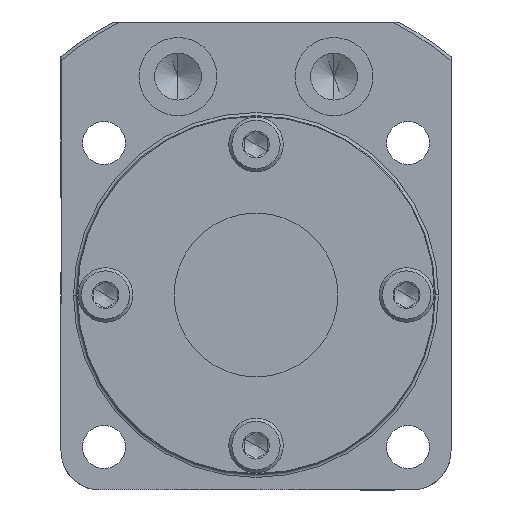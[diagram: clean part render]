
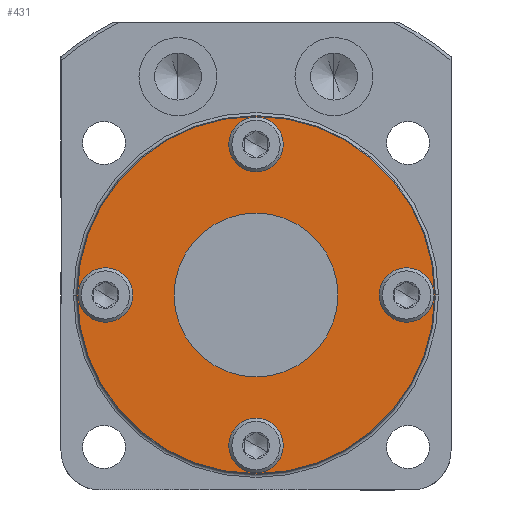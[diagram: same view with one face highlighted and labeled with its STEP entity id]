
A CAD part, front view. The second image highlights one B-rep face of the part: STEP entity #431.
In plain terms, the highlighted planar face has unit normal (0, -1, 0).
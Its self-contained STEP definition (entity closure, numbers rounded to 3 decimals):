
#419 = ORIENTED_EDGE ( 'NONE', *, *, #1632, .F. ) ;
#420 = EDGE_LOOP ( 'NONE', ( #422, #424 ) ) ;
#421 = EDGE_LOOP ( 'NONE', ( #456, #520 ) ) ;
#422 = ORIENTED_EDGE ( 'NONE', *, *, #423, .F. ) ;
#423 = EDGE_CURVE ( 'NONE', #1621, #1645, #2485, .T. ) ;
#424 = ORIENTED_EDGE ( 'NONE', *, *, #1697, .F. ) ;
#425 = ORIENTED_EDGE ( 'NONE', *, *, #1574, .F. ) ;
#426 = ORIENTED_EDGE ( 'NONE', *, *, #427, .F. ) ;
#427 = EDGE_CURVE ( 'NONE', #1631, #1633, #2522, .T. ) ;
#428 = EDGE_LOOP ( 'NONE', ( #426, #419 ) ) ;
#431 = ADVANCED_FACE ( 'NONE', ( #2512, #2511, #2510, #2509, #2508, #2507 ), #2506, .T. ) ;
#432 = EDGE_CURVE ( 'NONE', #1597, #1582, #2504, .T. ) ;
#433 = ORIENTED_EDGE ( 'NONE', *, *, #1596, .F. ) ;
#434 = EDGE_LOOP ( 'NONE', ( #435, #425 ) ) ;
#435 = ORIENTED_EDGE ( 'NONE', *, *, #436, .F. ) ;
#436 = EDGE_CURVE ( 'NONE', #1575, #1576, #2496, .T. ) ;
#439 = EDGE_CURVE ( 'NONE', #1769, #1706, #2491, .T. ) ;
#440 = ORIENTED_EDGE ( 'NONE', *, *, #432, .F. ) ;
#441 = EDGE_LOOP ( 'NONE', ( #440, #433 ) ) ;
#454 = ORIENTED_EDGE ( 'NONE', *, *, #1705, .T. ) ;
#455 = ORIENTED_EDGE ( 'NONE', *, *, #439, .T. ) ;
#456 = ORIENTED_EDGE ( 'NONE', *, *, #1711, .F. ) ;
#492 = EDGE_LOOP ( 'NONE', ( #454, #455 ) ) ;
#498 = EDGE_CURVE ( 'NONE', #1602, #1712, #2591, .T. ) ;
#520 = ORIENTED_EDGE ( 'NONE', *, *, #498, .F. ) ;
#1574 = EDGE_CURVE ( 'NONE', #1576, #1575, #4910, .T. ) ;
#1575 = VERTEX_POINT ( 'NONE', #4970 ) ;
#1576 = VERTEX_POINT ( 'NONE', #4969 ) ;
#1582 = VERTEX_POINT ( 'NONE', #4957 ) ;
#1596 = EDGE_CURVE ( 'NONE', #1582, #1597, #5001, .T. ) ;
#1597 = VERTEX_POINT ( 'NONE', #4991 ) ;
#1602 = VERTEX_POINT ( 'NONE', #4987 ) ;
#1621 = VERTEX_POINT ( 'NONE', #5036 ) ;
#1631 = VERTEX_POINT ( 'NONE', #5094 ) ;
#1632 = EDGE_CURVE ( 'NONE', #1633, #1631, #5093, .T. ) ;
#1633 = VERTEX_POINT ( 'NONE', #5088 ) ;
#1645 = VERTEX_POINT ( 'NONE', #5135 ) ;
#1697 = EDGE_CURVE ( 'NONE', #1645, #1621, #5316, .T. ) ;
#1705 = EDGE_CURVE ( 'NONE', #1706, #1769, #5299, .T. ) ;
#1706 = VERTEX_POINT ( 'NONE', #5294 ) ;
#1711 = EDGE_CURVE ( 'NONE', #1712, #1602, #5349, .T. ) ;
#1712 = VERTEX_POINT ( 'NONE', #5344 ) ;
#1769 = VERTEX_POINT ( 'NONE', #5393 ) ;
#2453 = CARTESIAN_POINT ( 'NONE',  ( 0., 15., 19.3 ) ) ;
#2482 = DIRECTION ( 'NONE',  ( 0., 0., -1. ) ) ;
#2483 = DIRECTION ( 'NONE',  ( 0., -1., 0. ) ) ;
#2484 = AXIS2_PLACEMENT_3D ( 'NONE', #2453, #2483, #2482 ) ;
#2485 = CIRCLE ( 'NONE', #2484, 2.15 ) ;
#2488 = DIRECTION ( 'NONE',  ( 0., -1., 0. ) ) ;
#2489 = CARTESIAN_POINT ( 'NONE',  ( 0., 15., 0. ) ) ;
#2490 = AXIS2_PLACEMENT_3D ( 'NONE', #2489, #2488, #2546 ) ;
#2491 = CIRCLE ( 'NONE', #2490, 22.9 ) ;
#2492 = DIRECTION ( 'NONE',  ( 0., 0., -1. ) ) ;
#2493 = DIRECTION ( 'NONE',  ( 0., -1., 0. ) ) ;
#2494 = CARTESIAN_POINT ( 'NONE',  ( -19.3, 15., 0. ) ) ;
#2495 = AXIS2_PLACEMENT_3D ( 'NONE', #2494, #2493, #2492 ) ;
#2496 = CIRCLE ( 'NONE', #2495, 2.15 ) ;
#2497 = DIRECTION ( 'NONE',  ( 0., 0., -1. ) ) ;
#2498 = DIRECTION ( 'NONE',  ( 0., -1., 0. ) ) ;
#2499 = CARTESIAN_POINT ( 'NONE',  ( 19.3, 15., 0. ) ) ;
#2500 = AXIS2_PLACEMENT_3D ( 'NONE', #2499, #2498, #2497 ) ;
#2501 = DIRECTION ( 'NONE',  ( 0., 0., -1. ) ) ;
#2502 = DIRECTION ( 'NONE',  ( 0., -1., 0. ) ) ;
#2503 = CARTESIAN_POINT ( 'NONE',  ( 0., 15., 0. ) ) ;
#2504 = CIRCLE ( 'NONE', #2500, 2.15 ) ;
#2505 = AXIS2_PLACEMENT_3D ( 'NONE', #2503, #2502, #2501 ) ;
#2506 = PLANE ( 'NONE',  #2505 ) ;
#2507 = FACE_OUTER_BOUND ( 'NONE', #492, .T. ) ;
#2508 = FACE_BOUND ( 'NONE', #421, .T. ) ;
#2509 = FACE_BOUND ( 'NONE', #420, .T. ) ;
#2510 = FACE_BOUND ( 'NONE', #428, .T. ) ;
#2511 = FACE_BOUND ( 'NONE', #434, .T. ) ;
#2512 = FACE_BOUND ( 'NONE', #441, .T. ) ;
#2518 = DIRECTION ( 'NONE',  ( 0., 0., -1. ) ) ;
#2519 = DIRECTION ( 'NONE',  ( 0., -1., 0. ) ) ;
#2520 = CARTESIAN_POINT ( 'NONE',  ( 0., 15., -19.3 ) ) ;
#2521 = AXIS2_PLACEMENT_3D ( 'NONE', #2520, #2519, #2518 ) ;
#2522 = CIRCLE ( 'NONE', #2521, 2.15 ) ;
#2546 = DIRECTION ( 'NONE',  ( 0., 0., -1. ) ) ;
#2587 = DIRECTION ( 'NONE',  ( 0., 0., -1. ) ) ;
#2588 = DIRECTION ( 'NONE',  ( 0., -1., 0. ) ) ;
#2589 = CARTESIAN_POINT ( 'NONE',  ( 0., 15., 0. ) ) ;
#2590 = AXIS2_PLACEMENT_3D ( 'NONE', #2589, #2588, #2587 ) ;
#2591 = CIRCLE ( 'NONE', #2590, 10.5 ) ;
#4907 = DIRECTION ( 'NONE',  ( 0., -1., 0. ) ) ;
#4908 = CARTESIAN_POINT ( 'NONE',  ( -19.3, 15., 0. ) ) ;
#4909 = AXIS2_PLACEMENT_3D ( 'NONE', #4908, #4907, #4971 ) ;
#4910 = CIRCLE ( 'NONE', #4909, 2.15 ) ;
#4957 = CARTESIAN_POINT ( 'NONE',  ( 19.3, 15., 2.15 ) ) ;
#4969 = CARTESIAN_POINT ( 'NONE',  ( -19.3, 15., 2.15 ) ) ;
#4970 = CARTESIAN_POINT ( 'NONE',  ( -19.3, 15., -2.15 ) ) ;
#4971 = DIRECTION ( 'NONE',  ( 0., 0., -1. ) ) ;
#4987 = CARTESIAN_POINT ( 'NONE',  ( 0., 15., 10.5 ) ) ;
#4991 = CARTESIAN_POINT ( 'NONE',  ( 19.3, 15., -2.15 ) ) ;
#4992 = DIRECTION ( 'NONE',  ( 0., 0., -1. ) ) ;
#4993 = DIRECTION ( 'NONE',  ( 0., -1., 0. ) ) ;
#4994 = CARTESIAN_POINT ( 'NONE',  ( 19.3, 15., 0. ) ) ;
#4995 = AXIS2_PLACEMENT_3D ( 'NONE', #4994, #4993, #4992 ) ;
#5001 = CIRCLE ( 'NONE', #4995, 2.15 ) ;
#5036 = CARTESIAN_POINT ( 'NONE',  ( 0., 15., 17.15 ) ) ;
#5088 = CARTESIAN_POINT ( 'NONE',  ( 0., 15., -17.15 ) ) ;
#5089 = DIRECTION ( 'NONE',  ( 0., 0., -1. ) ) ;
#5090 = DIRECTION ( 'NONE',  ( 0., -1., 0. ) ) ;
#5091 = CARTESIAN_POINT ( 'NONE',  ( 0., 15., -19.3 ) ) ;
#5092 = AXIS2_PLACEMENT_3D ( 'NONE', #5091, #5090, #5089 ) ;
#5093 = CIRCLE ( 'NONE', #5092, 2.15 ) ;
#5094 = CARTESIAN_POINT ( 'NONE',  ( 0., 15., -21.45 ) ) ;
#5135 = CARTESIAN_POINT ( 'NONE',  ( 0., 15., 21.45 ) ) ;
#5294 = CARTESIAN_POINT ( 'NONE',  ( 0., 15., -22.9 ) ) ;
#5295 = DIRECTION ( 'NONE',  ( 0., 0., -1. ) ) ;
#5296 = DIRECTION ( 'NONE',  ( 0., -1., 0. ) ) ;
#5297 = CARTESIAN_POINT ( 'NONE',  ( 0., 15., 0. ) ) ;
#5298 = AXIS2_PLACEMENT_3D ( 'NONE', #5297, #5296, #5295 ) ;
#5299 = CIRCLE ( 'NONE', #5298, 22.9 ) ;
#5312 = DIRECTION ( 'NONE',  ( 0., 0., -1. ) ) ;
#5313 = DIRECTION ( 'NONE',  ( 0., -1., 0. ) ) ;
#5314 = CARTESIAN_POINT ( 'NONE',  ( 0., 15., 19.3 ) ) ;
#5315 = AXIS2_PLACEMENT_3D ( 'NONE', #5314, #5313, #5312 ) ;
#5316 = CIRCLE ( 'NONE', #5315, 2.15 ) ;
#5344 = CARTESIAN_POINT ( 'NONE',  ( 0., 15., -10.5 ) ) ;
#5345 = DIRECTION ( 'NONE',  ( 0., 0., -1. ) ) ;
#5346 = DIRECTION ( 'NONE',  ( 0., -1., 0. ) ) ;
#5347 = CARTESIAN_POINT ( 'NONE',  ( 0., 15., 0. ) ) ;
#5348 = AXIS2_PLACEMENT_3D ( 'NONE', #5347, #5346, #5345 ) ;
#5349 = CIRCLE ( 'NONE', #5348, 10.5 ) ;
#5393 = CARTESIAN_POINT ( 'NONE',  ( 0., 15., 22.9 ) ) ;
